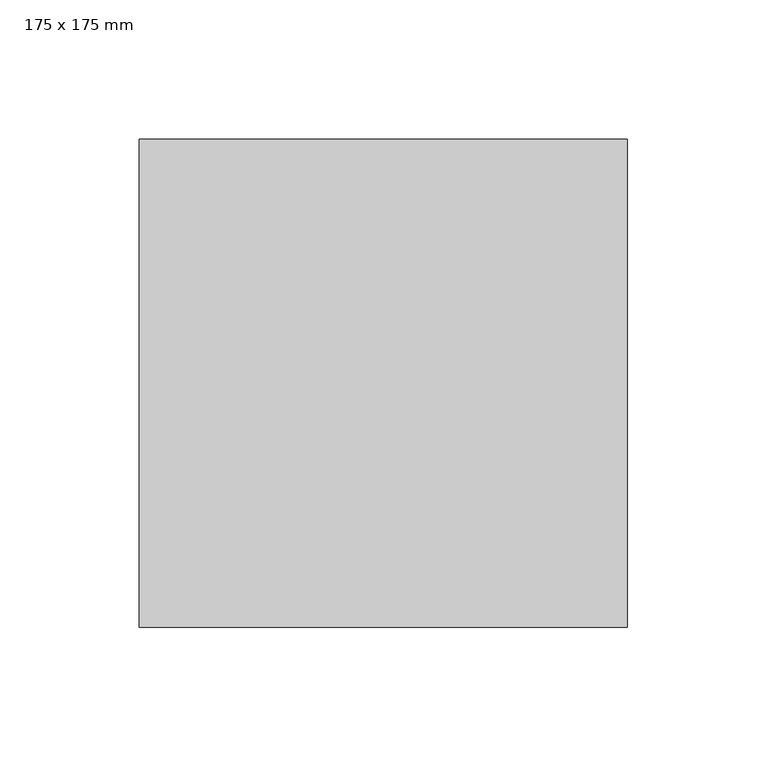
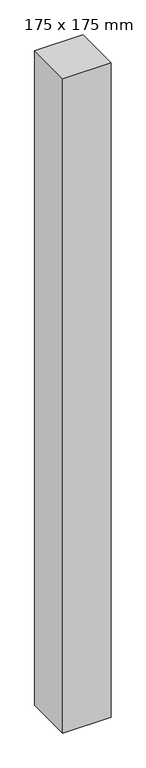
"""IFC4 building model written with IfcOpenShell, lengths in millimetres: column geometry, 矩形柱 : 175 x 175 mm."""

import ifcopenshell
import ifcopenshell.guid

model = None  # the IFC model being written
_history = None  # IfcOwnerHistory: only IFC2X3 demands one
_inside = {}  # id of a spatial element -> (the spatial element, [elements in it])
_under = {}  # id of a project, library or spatial element -> (it, [spatial elements below it])
_declared = {}  # id of a project -> (the project, [libraries it declares])
_typed = {}  # id of a type object -> (the type object, [elements of that type])
_made_of = {}  # id of a material, layer set ... -> (it, [elements and type objects made of it])


def new_model(schema):
    """Start an empty IFC model of exactly this schema.

    Asked for "IFC4X3", IfcOpenShell would pick the latest addendum, in which some entities
    have other attributes; the version numbers below select the first issue.
    IFC2X3 requires an IfcOwnerHistory on every rooted entity: one is made here for all.
    """
    global model, _history
    if schema == "IFC4X3":
        model = ifcopenshell.file(schema_version=(4, 3, 0, 0))
    else:
        model = ifcopenshell.file(schema=schema)
    _inside.clear()
    _under.clear()
    _declared.clear()
    _typed.clear()
    _made_of.clear()
    _history = None
    if model.schema == "IFC2X3":
        org = make("IfcOrganization", Name="unknown")
        user = make(
            "IfcPersonAndOrganization",
            ThePerson=make("IfcPerson", FamilyName="unknown"),
            TheOrganization=org,
        )
        app = make(
            "IfcApplication",
            ApplicationDeveloper=org,
            Version="unknown",
            ApplicationFullName="unknown",
            ApplicationIdentifier="unknown",
        )
        _history = make(
            "IfcOwnerHistory",
            OwningUser=user,
            OwningApplication=app,
            ChangeAction="ADDED",
            CreationDate=0,
        )
    return model


def make(cls, **values):
    """One entity of the class cls with the attributes given. An attribute that is None is left unset."""
    return model.create_entity(
        cls, **{name: value for name, value in values.items() if value is not None}
    )


def rooted(cls, **values):
    """An entity with a GlobalId (a new one), such as an element, a storey or a relation."""
    return make(cls, GlobalId=ifcopenshell.guid.new(), OwnerHistory=_history, **values)


def si_unit(unit_type, name, prefix=None):
    """IfcSIUnit, for example si_unit("LENGTHUNIT", "METRE", prefix="MILLI")."""
    return make("IfcSIUnit", UnitType=unit_type, Prefix=prefix, Name=name)


def assignment(units):
    """IfcUnitAssignment: the units of a project."""
    return None if units is None else make("IfcUnitAssignment", Units=units)


def point(xyz):
    """IfcCartesianPoint."""
    return None if xyz is None else make("IfcCartesianPoint", Coordinates=xyz)


def direction(xyz):
    """IfcDirection."""
    return None if xyz is None else make("IfcDirection", DirectionRatios=xyz)


def frame(location, z_axis=None, x_axis=None):
    """IfcAxis2Placement3D, a coordinate frame: its origin and axes. An axis left out is left unset."""
    return make(
        "IfcAxis2Placement3D",
        Location=point(location),
        Axis=direction(z_axis),
        RefDirection=direction(x_axis),
    )


def origin():
    """The frame at (0, 0, 0) with its axes left unset."""
    return frame((0.0, 0.0, 0.0))


def origin_with_axes():
    """The frame at (0, 0, 0) with the z axis (0, 0, 1) and the x axis (1, 0, 0) written out."""
    return frame((0.0, 0.0, 0.0), z_axis=(0.0, 0.0, 1.0), x_axis=(1.0, 0.0, 0.0))


def place(relative_to, where):
    """IfcLocalPlacement: puts the frame where relative to a parent placement (None: the world)."""
    return make(
        "IfcLocalPlacement", PlacementRelTo=relative_to, RelativePlacement=where
    )


def context(
    kind, dimensions, precision=None, world=None, true_north=None, identifier=None
):
    """IfcGeometricRepresentationContext, for example the 3D "Model" context."""
    return make(
        "IfcGeometricRepresentationContext",
        ContextIdentifier=identifier,
        ContextType=kind,
        CoordinateSpaceDimension=dimensions,
        Precision=precision,
        WorldCoordinateSystem=world,
        TrueNorth=true_north,
    )


def project(units=None, contexts=None):
    """IfcProject with its units and contexts."""
    return rooted(
        "IfcProject",
        Name="project",
        RepresentationContexts=contexts,
        UnitsInContext=assignment(units),
    )


def spatial(cls, under=None, at=None, **own):
    """A site, building, storey or space (cls), placed at a placement, below another one or the project."""
    s = rooted(cls, ObjectPlacement=at, **own)
    if under is not None:
        _under.setdefault(under.id(), (under, []))[1].append(s)
    return s


def polyline(points):
    """IfcPolyline through the points."""
    return make("IfcPolyline", Points=[point(p) for p in points])


def outline(outer, holes=None, kind="AREA"):
    """IfcArbitraryClosedProfileDef: a profile drawn as a closed curve; with holes, ...WithVoids."""
    if holes is None:
        return make("IfcArbitraryClosedProfileDef", ProfileType=kind, OuterCurve=outer)
    return make(
        "IfcArbitraryProfileDefWithVoids",
        ProfileType=kind,
        OuterCurve=outer,
        InnerCurves=holes,
    )


def extrude(swept, where, along, depth):
    """IfcExtrudedAreaSolid: the profile swept, set in the frame where, extruded along a direction by depth."""
    return make(
        "IfcExtrudedAreaSolid",
        SweptArea=swept,
        Position=where,
        ExtrudedDirection=direction(along),
        Depth=depth,
    )


def shape(context_of_items, identifier, shape_type, items):
    """IfcShapeRepresentation: the items that make up one representation, for example the "Body"."""
    return make(
        "IfcShapeRepresentation",
        ContextOfItems=context_of_items,
        RepresentationIdentifier=identifier,
        RepresentationType=shape_type,
        Items=items,
    )


def source(mapping_origin, context_of_items, identifier, shape_type, items):
    """IfcRepresentationMap: a shape defined once, which mapped items show again and again."""
    return make(
        "IfcRepresentationMap",
        MappingOrigin=mapping_origin,
        MappedRepresentation=shape(context_of_items, identifier, shape_type, items),
    )


def transform(
    local_origin,
    x_axis=None,
    y_axis=None,
    z_axis=None,
    scale=None,
    scale2=None,
    scale3=None,
    uniform=True,
):
    """IfcCartesianTransformationOperator3D, or its non-uniform kind. x_axis, y_axis, z_axis: its Axis1, 2, 3."""
    if uniform:
        return make(
            "IfcCartesianTransformationOperator3D",
            Axis1=direction(x_axis),
            Axis2=direction(y_axis),
            LocalOrigin=point(local_origin),
            Scale=scale,
            Axis3=direction(z_axis),
        )
    return make(
        "IfcCartesianTransformationOperator3DnonUniform",
        Axis1=direction(x_axis),
        Axis2=direction(y_axis),
        LocalOrigin=point(local_origin),
        Scale=scale,
        Axis3=direction(z_axis),
        Scale2=scale2,
        Scale3=scale3,
    )


def mapped(mapping_source, mapping_target):
    """IfcMappedItem: shows the shape of a source again, moved by a transform."""
    return make(
        "IfcMappedItem", MappingSource=mapping_source, MappingTarget=mapping_target
    )


def made_of(thing, what):
    """Note that an element or type object is made of a material, layer set ...; save() writes the relation."""
    if what is not None:
        _made_of.setdefault(what.id(), (what, []))[1].append(thing)
    return thing


def element(
    cls,
    number,
    at=None,
    inside=None,
    cuts=None,
    type_object=None,
    material=None,
    context=None,
    identifier="Body",
    shape_type=None,
    held_by="IfcProductDefinitionShape",
    body=None,
    shapes=None,
    **own,
):
    """One element of the class cls, such as IfcWall. Its Tag is "e" and its number.

    at: its placement. inside: the storey or other place that contains it. cuts: it is an
    opening in that element (IfcRelVoidsElement). A single representation is given by context,
    identifier, shape_type and body (its items); several are given by shapes. held_by: the class
    of the entity that holds the representations. save() writes the other relations.
    """
    e = rooted(cls, Tag="e%d" % number, ObjectPlacement=at, **own)
    if body is not None:
        shapes = [shape(context, identifier, shape_type, body)]
    if shapes is not None:
        e.Representation = make(held_by, Representations=shapes)
    if inside is not None:
        _inside.setdefault(inside.id(), (inside, []))[1].append(e)
    if cuts is not None:
        rooted(
            "IfcRelVoidsElement", RelatingBuildingElement=cuts, RelatedOpeningElement=e
        )
    if type_object is not None:
        _typed.setdefault(type_object.id(), (type_object, []))[1].append(e)
    return made_of(e, material)


def aggregate(whole, parts):
    """IfcRelAggregates: a whole, such as a stair, and the parts it consists of."""
    return rooted("IfcRelAggregates", RelatingObject=whole, RelatedObjects=parts)


def save(model, path):
    """Write the relations noted so far, then the file.

    IfcRelAggregates (storeys below a building ...), IfcRelContainedInSpatialStructure (elements
    in a storey), IfcRelDefinesByType, IfcRelAssociatesMaterial and IfcRelDeclares: one each for
    every whole, place, type object, material and project.
    """
    for whole, parts in _under.values():
        aggregate(whole, parts)
    for where, things in _inside.values():
        rooted(
            "IfcRelContainedInSpatialStructure",
            RelatedElements=things,
            RelatingStructure=where,
        )
    for kind, things in _typed.values():
        rooted("IfcRelDefinesByType", RelatedObjects=things, RelatingType=kind)
    for what, things in _made_of.values():
        rooted("IfcRelAssociatesMaterial", RelatedObjects=things, RelatingMaterial=what)
    for by, libraries in _declared.values():
        rooted("IfcRelDeclares", RelatingContext=by, RelatedDefinitions=libraries)
    model.write(path)


def column_175_x_175_mm_2f19bf58(model_context):
    return source(origin(), model_context, "Body", "SweptSolid", [
        extrude(outline(polyline([(87.5, 87.5), (87.5, -87.5), (-87.5, -87.5), (-87.5, 87.5), (87.5, 87.5)])), origin_with_axes(), (0.0, 0.0, 1.0), 2500.0),
    ])


if __name__ == "__main__":
    model = new_model("IFC4")
    model_context = context("Model", 3, world=origin())
    ifc_project = project(units=[si_unit("LENGTHUNIT", "METRE", prefix="MILLI")], contexts=[model_context])
    site = spatial("IfcSite", under=ifc_project)
    building = spatial("IfcBuilding", under=site)
    placement = place(None, origin())
    column_175_x_175_mm_shape = column_175_x_175_mm_2f19bf58(model_context)
    element("IfcColumn", 1, ObjectType="矩形柱 : 175 x 175 mm", at=placement, inside=building, context=model_context, shape_type="MappedRepresentation", body=[
        mapped(column_175_x_175_mm_shape, transform((0.0, 0.0, 0.0), x_axis=(1.0, 0.0, 0.0), y_axis=(0.0, 1.0, 0.0), z_axis=(0.0, 0.0, 1.0))),
    ])
    save(model, "model.ifc")
